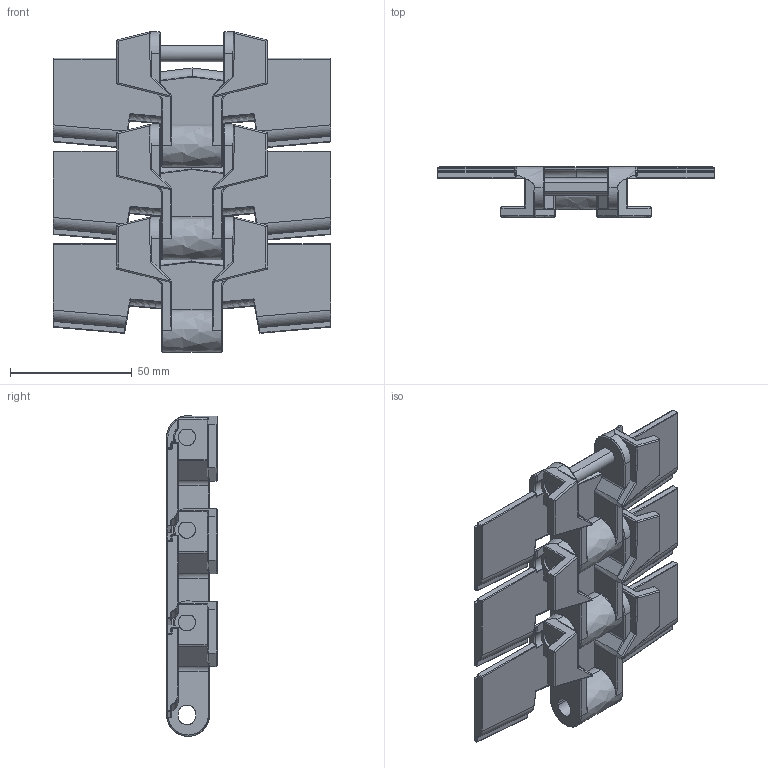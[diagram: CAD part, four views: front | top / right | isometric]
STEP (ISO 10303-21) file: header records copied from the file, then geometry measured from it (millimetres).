
FILE_DESCRIPTION (( 'STEP AP203' ), '1' );
FILE_NAME ('2000.879.450.STEP', '2019-10-28T10:50:32', ( 'Localadmin' ), ( 'Microsoft' ), 'SwSTEP 2.0', 'SolidWorks 2018', '' );
FILE_SCHEMA (( 'CONFIG_CONTROL_DESIGN' ));
Length unit declared in the file: millimetre
Products named in the file (776): Document-710.stp; Document-637.stp; Document-661.stp; Document-43.stp; Document-270.stp; Document-357.stp; Document-308.stp; Document-66.stp; Document-751.stp; Document-423.stp; Document-398.stp; Document-547.stp; Document-513.stp; Document-180.stp; Document-107.stp; Document-588.stp; Document-221.stp; Document-702.stp; Document-629.stp; Document-35.stp; Document-262.stp; Document-349.stp; Document-464.stp; Document-58.stp; Document-743.stp; Document-415.stp; Document-390.stp; Document-539.stp; Document-148.stp; Document-505.stp; Document-172.stp; Document-99.stp; Document-653.stp; Document-580.stp; Document-213.stp; Document-300.stp; Document-694.stp; Document-621.stp; Document-27.stp; Document-254.stp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
Assembly tree (775 placements, depth 3):
  2000.879.450
    878 BO K450.stp
      Blocco 06.stp
      Blocco 04.stp
      Blocco 03.stp
      Document.stp
      Document-0.stp
      Document-1.stp
      Document-2.stp
      Document-3.stp
      Document-4.stp
      Document-5.stp
      Document-6.stp
      Document-7.stp
      Document-8.stp
      Document-9.stp
      Document-10.stp
      Document-11.stp
      Document-12.stp
      Document-13.stp
      Document-14.stp
      Document-15.stp
      Document-16.stp
      Document-17.stp
      Document-18.stp
      Document-19.stp
      Document-20.stp
      Document-21.stp
      Document-22.stp
      Document-23.stp
      Document-24.stp
      Document-25.stp
      Document-26.stp
      Document-27.stp
      Document-28.stp
      Document-29.stp
      Document-30.stp
      Document-31.stp
      Document-32.stp
      Document-33.stp
      Document-34.stp
      Document-35.stp
      Document-36.stp
      Document-37.stp
      Document-38.stp
      Document-39.stp
      Document-40.stp
      Document-41.stp
      Document-42.stp
      Document-43.stp
      Document-44.stp
      Document-45.stp
      Document-46.stp
      Document-47.stp
      Document-48.stp
      Document-49.stp
      Document-50.stp
      Document-51.stp
      Document-52.stp
      Document-53.stp
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Bounding box: 114.3 x 20.8 x 131.9 mm (x, y, z)
Volume: 4541.6 mm3; surface area: 47282.7 mm2
Topology: 3 solids, 774 shells, 782 faces, 3899 edges, 3834 vertices
Faces by surface type: bspline 551, plane 231
Entity records: 140058 total; most frequent: CARTESIAN_POINT 35634, PERSON_AND_ORGANIZATION 6983, LOCAL_TIME 5430, CALENDAR_DATE 5430, DATE_AND_TIME 5430, COORDINATED_UNIVERSAL_TIME_OFFSET 5430, CC_DESIGN_PERSON_AND_ORGANIZATION_ASSIGNMENT 4655, PERSON_AND_ORGANIZATION_ROLE 4655
